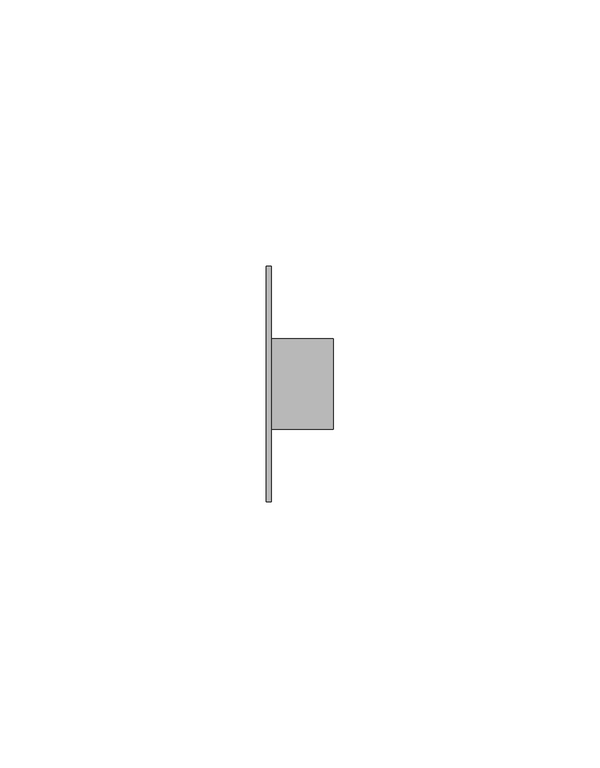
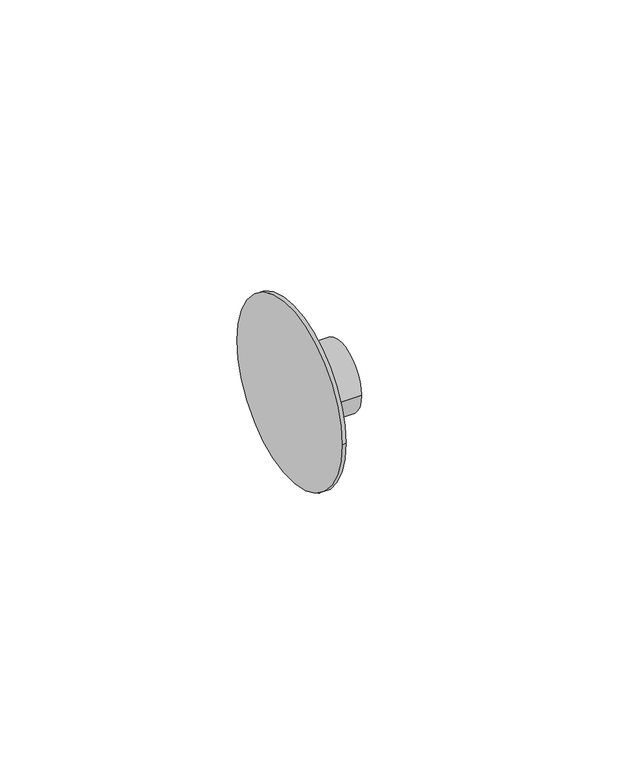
"""IFC4 building model written with IfcOpenShell, lengths in millimetres: pipe fitting geometry, Bucha de redução reta - Soldada - CU : Padrão."""

from ifc_helpers import new_model, si_unit, frame, origin, place, context, project, spatial, circle_curve, source, transform, mapped, element, save
from ifc_brep_helpers import plane_surface, cylinder_surface, advanced_brep


def pipe_fitting_c3679463(model_context):
    return source(origin(), model_context, "Body", "AdvancedBrep", [
        advanced_brep(
        [(0.0, -22.15, 0.0), (0.0, 22.15, 0.0), (1.0, -22.15, 0.0), (1.0, 22.15, 0.0), (1.0, -8.4937, 0.0), (1.0, 8.4937, 0.0), (12.6589, -8.4937, 0.0), (12.6589, 8.4937, 0.0)],
        [
            (0, 1, circle_curve(frame((0.0, 0.0, 0.0), z_axis=(-1.0, 0.0, 0.0), x_axis=(0.0, 1.0, 0.0)), 22.15)),
            (1, 0, circle_curve(frame((0.0, 0.0, 0.0), z_axis=(-1.0, 0.0, 0.0), x_axis=(0.0, 1.0, 0.0)), 22.15)),
            (2, 3, circle_curve(frame((1.0, 0.0, 0.0), z_axis=(1.0, 0.0, 0.0), x_axis=(0.0, 1.0, 0.0)), 22.15)),
            (3, 2, circle_curve(frame((1.0, 0.0, 0.0), z_axis=(1.0, 0.0, 0.0), x_axis=(0.0, 1.0, 0.0)), 22.15)),
            (4, 5, circle_curve(frame((1.0, 0.0, 0.0), z_axis=(-1.0, 0.0, 0.0), x_axis=(0.0, 1.0, 0.0)), 8.4937)),
            (5, 4, circle_curve(frame((1.0, 0.0, 0.0), z_axis=(-1.0, 0.0, 0.0), x_axis=(0.0, 1.0, 0.0)), 8.4937)),
            (0, 2),
            (3, 1),
            (6, 7, circle_curve(frame((12.6589, 0.0, 0.0), z_axis=(1.0, 0.0, 0.0), x_axis=(0.0, 1.0, 0.0)), 8.4937)),
            (7, 6, circle_curve(frame((12.6589, 0.0, 0.0), z_axis=(1.0, 0.0, 0.0), x_axis=(0.0, 1.0, 0.0)), 8.4937)),
            (7, 5),
            (4, 6),
        ],
        [
            plane_surface(frame((0.0, 0.0, 0.0), z_axis=(-1.0, 0.0, 0.0), x_axis=(0.0, 0.0, 1.0))),
            plane_surface(frame((1.0, 0.0, 0.0), z_axis=(1.0, 0.0, 0.0), x_axis=(0.0, 0.0, 1.0))),
            cylinder_surface(frame((0.0, 0.0, 0.0), z_axis=(-1.0, 0.0, 0.0), x_axis=(0.0, 1.0, 0.0)), 22.15),
            plane_surface(frame((12.6589, 0.0, 0.0), z_axis=(1.0, 0.0, 0.0), x_axis=(0.0, 0.0, 1.0))),
            cylinder_surface(frame((1.0, 0.0, 0.0), z_axis=(-1.0, 0.0, 0.0), x_axis=(0.0, 1.0, 0.0)), 8.4937),
        ],
        [
            (0, [[1, 2]]),
            (1, [[3, 4], [5, 6]]),
            (2, [[-1, 7, -4, 8]]),
            (2, [[-2, -8, -3, -7]]),
            (3, [[9, 10]]),
            (4, [[-10, 11, -5, 12]]),
            (4, [[-9, -12, -6, -11]]),
        ],
    ),
    ])


if __name__ == "__main__":
    model = new_model("IFC4")
    model_context = context("Model", 3, world=origin())
    ifc_project = project(units=[si_unit("LENGTHUNIT", "METRE", prefix="MILLI")], contexts=[model_context])
    site = spatial("IfcSite", under=ifc_project)
    building = spatial("IfcBuilding", under=site)
    placement = place(None, origin())
    pipe_fitting_shape = pipe_fitting_c3679463(model_context)
    element("IfcPipeFitting", 1, ObjectType="Bucha de redução reta - Soldada - CU : Padrão", at=placement, inside=building, context=model_context, shape_type="MappedRepresentation", body=[
        mapped(pipe_fitting_shape, transform((0.0, 0.0, 0.0), x_axis=(1.0, 0.0, 0.0), y_axis=(0.0, 1.0, 0.0), z_axis=(0.0, 0.0, 1.0))),
    ])
    save(model, "model.ifc")
